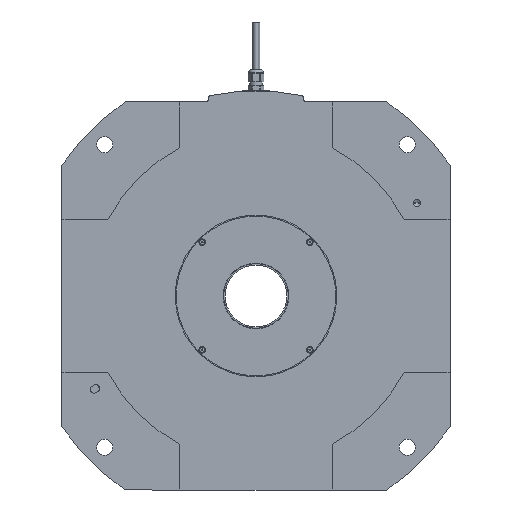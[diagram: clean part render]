
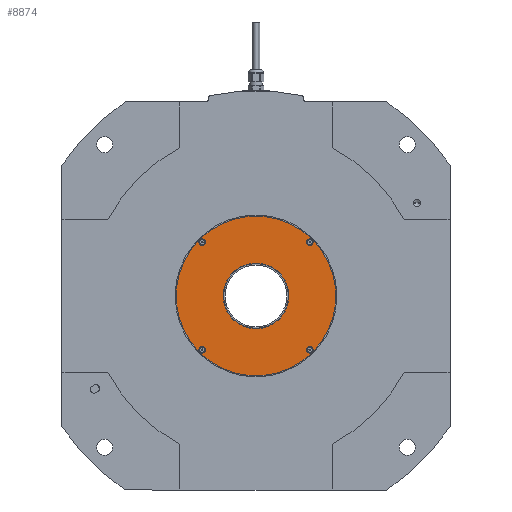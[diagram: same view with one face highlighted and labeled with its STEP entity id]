
A CAD part, front view. The second image highlights one B-rep face of the part: STEP entity #8874.
In plain terms, the highlighted planar face has unit normal (0, -1, 0).
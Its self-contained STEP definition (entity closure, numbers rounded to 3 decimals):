
#1859 = EDGE_CURVE ( 'NONE', #24343, #5739, #33267, .T. ) ;
#1879 = CARTESIAN_POINT ( 'NONE',  ( 56.569, 2., 56.569 ) ) ;
#2085 = CARTESIAN_POINT ( 'NONE',  ( 0., 2., 0. ) ) ;
#2163 = CARTESIAN_POINT ( 'NONE',  ( 57.983, 2., 57.983 ) ) ;
#2512 = CARTESIAN_POINT ( 'NONE',  ( 55.154, 2., -57.983 ) ) ;
#2997 = EDGE_CURVE ( 'NONE', #32353, #30198, #24169, .T. ) ;
#3013 = AXIS2_PLACEMENT_3D ( 'NONE', #9169, #9008, #19221 ) ;
#3439 = FACE_BOUND ( 'NONE', #15843, .T. ) ;
#3754 = FACE_BOUND ( 'NONE', #8510, .T. ) ;
#3760 = AXIS2_PLACEMENT_3D ( 'NONE', #19904, #17694, #5095 ) ;
#3909 = DIRECTION ( 'NONE',  ( 0.707, 0., 0.707 ) ) ;
#4074 = CARTESIAN_POINT ( 'NONE',  ( -56.569, 2., 56.569 ) ) ;
#4216 = CARTESIAN_POINT ( 'NONE',  ( -56.569, 2., -56.569 ) ) ;
#4381 = DIRECTION ( 'NONE',  ( 0., 1., 0. ) ) ;
#4768 = ORIENTED_EDGE ( 'NONE', *, *, #1859, .T. ) ;
#5019 = EDGE_CURVE ( 'NONE', #24834, #18595, #7108, .T. ) ;
#5095 = DIRECTION ( 'NONE',  ( 0.707, 0., -0.707 ) ) ;
#5164 = EDGE_CURVE ( 'NONE', #28099, #16794, #24819, .T. ) ;
#5528 = CARTESIAN_POINT ( 'NONE',  ( 57.983, 2., -55.154 ) ) ;
#5739 = VERTEX_POINT ( 'NONE', #13842 ) ;
#5997 = ORIENTED_EDGE ( 'NONE', *, *, #2997, .T. ) ;
#6457 = FACE_BOUND ( 'NONE', #7224, .T. ) ;
#6746 = DIRECTION ( 'NONE',  ( -0.707, 0., -0.707 ) ) ;
#6876 = CIRCLE ( 'NONE', #23526, 84. ) ;
#7108 = CIRCLE ( 'NONE', #23763, 2. ) ;
#7126 = CARTESIAN_POINT ( 'NONE',  ( 0., 2., 0. ) ) ;
#7224 = EDGE_LOOP ( 'NONE', ( #29865, #14884 ) ) ;
#7325 = CARTESIAN_POINT ( 'NONE',  ( 56.569, 2., -56.569 ) ) ;
#8181 = EDGE_CURVE ( 'NONE', #18595, #24834, #32021, .T. ) ;
#8510 = EDGE_LOOP ( 'NONE', ( #5997, #9879 ) ) ;
#8745 = VERTEX_POINT ( 'NONE', #30363 ) ;
#8874 = ADVANCED_FACE ( 'NONE', ( #3754, #3439, #6457, #13995, #18888, #16362 ), #29512, .F. ) ;
#9008 = DIRECTION ( 'NONE',  ( 0., 1., 0. ) ) ;
#9154 = CARTESIAN_POINT ( 'NONE',  ( 0., 2., 0. ) ) ;
#9169 = CARTESIAN_POINT ( 'NONE',  ( 56.569, 2., -56.569 ) ) ;
#9502 = CARTESIAN_POINT ( 'NONE',  ( -56.569, 2., -56.569 ) ) ;
#9526 = EDGE_LOOP ( 'NONE', ( #4768, #30395 ) ) ;
#9879 = ORIENTED_EDGE ( 'NONE', *, *, #28125, .T. ) ;
#10275 = AXIS2_PLACEMENT_3D ( 'NONE', #9502, #22102, #19412 ) ;
#10477 = CARTESIAN_POINT ( 'NONE',  ( 55.154, 2., 55.154 ) ) ;
#10671 = AXIS2_PLACEMENT_3D ( 'NONE', #22293, #17400, #20268 ) ;
#10827 = CIRCLE ( 'NONE', #32333, 2. ) ;
#11064 = CIRCLE ( 'NONE', #20185, 84. ) ;
#11610 = ORIENTED_EDGE ( 'NONE', *, *, #27757, .T. ) ;
#11913 = AXIS2_PLACEMENT_3D ( 'NONE', #2085, #27633, #32854 ) ;
#12423 = CIRCLE ( 'NONE', #11913, 34.5 ) ;
#12778 = CARTESIAN_POINT ( 'NONE',  ( -55.154, 2., 57.983 ) ) ;
#13354 = CARTESIAN_POINT ( 'NONE',  ( 24.395, 2., 24.395 ) ) ;
#13567 = AXIS2_PLACEMENT_3D ( 'NONE', #4216, #4381, #29803 ) ;
#13842 = CARTESIAN_POINT ( 'NONE',  ( -24.395, 2., -24.395 ) ) ;
#13935 = CIRCLE ( 'NONE', #29023, 2. ) ;
#13995 = FACE_BOUND ( 'NONE', #32472, .T. ) ;
#14535 = DIRECTION ( 'NONE',  ( 0., 1., 0. ) ) ;
#14627 = DIRECTION ( 'NONE',  ( 0.707, 0., -0.707 ) ) ;
#14884 = ORIENTED_EDGE ( 'NONE', *, *, #5019, .T. ) ;
#14949 = CARTESIAN_POINT ( 'NONE',  ( 56.569, 2., 56.569 ) ) ;
#15615 = CIRCLE ( 'NONE', #10275, 2. ) ;
#15841 = CARTESIAN_POINT ( 'NONE',  ( -57.983, 2., -57.983 ) ) ;
#15843 = EDGE_LOOP ( 'NONE', ( #22845, #33197 ) ) ;
#16362 = FACE_OUTER_BOUND ( 'NONE', #28298, .T. ) ;
#16794 = VERTEX_POINT ( 'NONE', #28665 ) ;
#16806 = VERTEX_POINT ( 'NONE', #10477 ) ;
#16938 = CIRCLE ( 'NONE', #21791, 2. ) ;
#16997 = EDGE_CURVE ( 'NONE', #29955, #16806, #16938, .T. ) ;
#17356 = DIRECTION ( 'NONE',  ( 0., 1., 0. ) ) ;
#17400 = DIRECTION ( 'NONE',  ( 0., 1., 0. ) ) ;
#17694 = DIRECTION ( 'NONE',  ( 0., 1., 0. ) ) ;
#17808 = DIRECTION ( 'NONE',  ( -0.707, 0., -0.707 ) ) ;
#18556 = DIRECTION ( 'NONE',  ( 0.707, 0., 0.707 ) ) ;
#18595 = VERTEX_POINT ( 'NONE', #5528 ) ;
#18888 = FACE_BOUND ( 'NONE', #9526, .T. ) ;
#19111 = EDGE_CURVE ( 'NONE', #28568, #8745, #11064, .T. ) ;
#19221 = DIRECTION ( 'NONE',  ( -0.707, 0., 0.707 ) ) ;
#19412 = DIRECTION ( 'NONE',  ( 0.707, 0., 0.707 ) ) ;
#19862 = DIRECTION ( 'NONE',  ( 0., 1., 0. ) ) ;
#19904 = CARTESIAN_POINT ( 'NONE',  ( -56.569, 2., 56.569 ) ) ;
#20185 = AXIS2_PLACEMENT_3D ( 'NONE', #9154, #19862, #3909 ) ;
#20268 = DIRECTION ( 'NONE',  ( 0.707, 0., 0.707 ) ) ;
#20456 = ORIENTED_EDGE ( 'NONE', *, *, #19111, .F. ) ;
#21791 = AXIS2_PLACEMENT_3D ( 'NONE', #14949, #32658, #17808 ) ;
#22102 = DIRECTION ( 'NONE',  ( 0., 1., 0. ) ) ;
#22293 = CARTESIAN_POINT ( 'NONE',  ( 0., 2., 0. ) ) ;
#22845 = ORIENTED_EDGE ( 'NONE', *, *, #16997, .T. ) ;
#22971 = EDGE_CURVE ( 'NONE', #8745, #28568, #6876, .T. ) ;
#23526 = AXIS2_PLACEMENT_3D ( 'NONE', #7126, #17356, #25262 ) ;
#23763 = AXIS2_PLACEMENT_3D ( 'NONE', #7325, #14535, #25301 ) ;
#24169 = CIRCLE ( 'NONE', #3760, 2. ) ;
#24262 = DIRECTION ( 'NONE',  ( 0., 1., 0. ) ) ;
#24343 = VERTEX_POINT ( 'NONE', #13354 ) ;
#24548 = DIRECTION ( 'NONE',  ( 0., 1., 0. ) ) ;
#24819 = CIRCLE ( 'NONE', #13567, 2. ) ;
#24834 = VERTEX_POINT ( 'NONE', #2512 ) ;
#25262 = DIRECTION ( 'NONE',  ( 0.707, 0., 0.707 ) ) ;
#25301 = DIRECTION ( 'NONE',  ( -0.707, 0., 0.707 ) ) ;
#25586 = AXIS2_PLACEMENT_3D ( 'NONE', #31541, #24262, #18556 ) ;
#26770 = CARTESIAN_POINT ( 'NONE',  ( -59.397, 2., -59.397 ) ) ;
#26954 = DIRECTION ( 'NONE',  ( 0., 1., 0. ) ) ;
#27633 = DIRECTION ( 'NONE',  ( 0., 1., 0. ) ) ;
#27757 = EDGE_CURVE ( 'NONE', #16794, #28099, #15615, .T. ) ;
#28099 = VERTEX_POINT ( 'NONE', #15841 ) ;
#28125 = EDGE_CURVE ( 'NONE', #30198, #32353, #10827, .T. ) ;
#28298 = EDGE_LOOP ( 'NONE', ( #20456, #29913 ) ) ;
#28399 = EDGE_CURVE ( 'NONE', #5739, #24343, #12423, .T. ) ;
#28568 = VERTEX_POINT ( 'NONE', #26770 ) ;
#28665 = CARTESIAN_POINT ( 'NONE',  ( -55.154, 2., -55.154 ) ) ;
#29023 = AXIS2_PLACEMENT_3D ( 'NONE', #1879, #24548, #6746 ) ;
#29406 = CARTESIAN_POINT ( 'NONE',  ( -57.983, 2., 55.154 ) ) ;
#29512 = PLANE ( 'NONE',  #25586 ) ;
#29803 = DIRECTION ( 'NONE',  ( 0.707, 0., 0.707 ) ) ;
#29865 = ORIENTED_EDGE ( 'NONE', *, *, #8181, .T. ) ;
#29913 = ORIENTED_EDGE ( 'NONE', *, *, #22971, .F. ) ;
#29955 = VERTEX_POINT ( 'NONE', #2163 ) ;
#30198 = VERTEX_POINT ( 'NONE', #29406 ) ;
#30363 = CARTESIAN_POINT ( 'NONE',  ( 59.397, 2., 59.397 ) ) ;
#30395 = ORIENTED_EDGE ( 'NONE', *, *, #28399, .T. ) ;
#31541 = CARTESIAN_POINT ( 'NONE',  ( 0., 2., 0. ) ) ;
#32021 = CIRCLE ( 'NONE', #3013, 2. ) ;
#32211 = EDGE_CURVE ( 'NONE', #16806, #29955, #13935, .T. ) ;
#32333 = AXIS2_PLACEMENT_3D ( 'NONE', #4074, #26954, #14627 ) ;
#32353 = VERTEX_POINT ( 'NONE', #12778 ) ;
#32472 = EDGE_LOOP ( 'NONE', ( #11610, #32803 ) ) ;
#32658 = DIRECTION ( 'NONE',  ( 0., 1., 0. ) ) ;
#32803 = ORIENTED_EDGE ( 'NONE', *, *, #5164, .T. ) ;
#32854 = DIRECTION ( 'NONE',  ( 0.707, 0., 0.707 ) ) ;
#33197 = ORIENTED_EDGE ( 'NONE', *, *, #32211, .T. ) ;
#33267 = CIRCLE ( 'NONE', #10671, 34.5 ) ;
